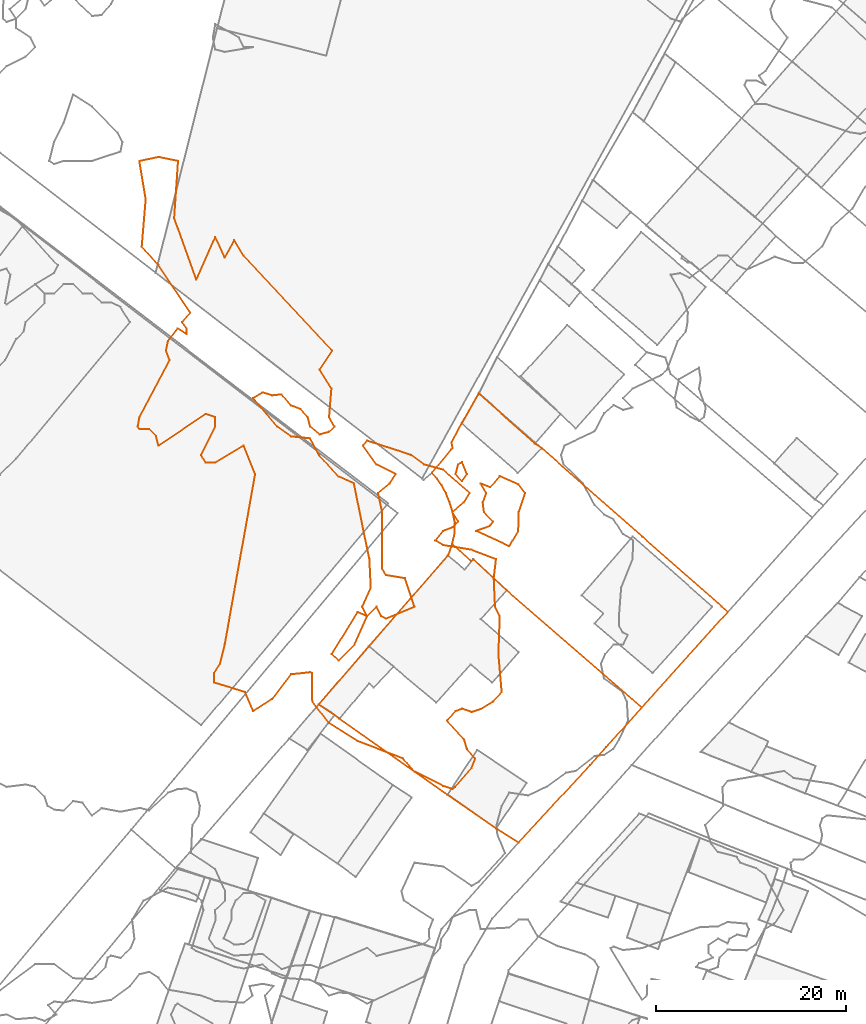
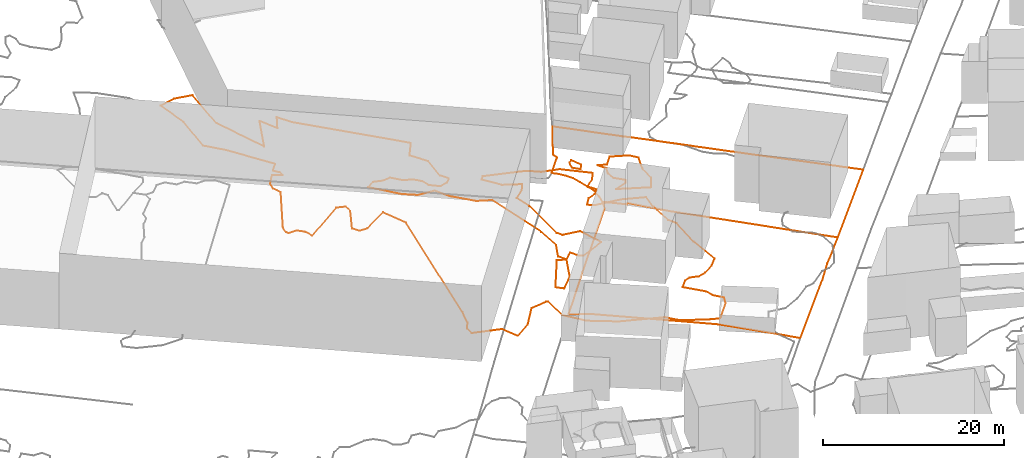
# Not in any storey, part 258 of 419: 6 proxies.
"""IFC2X3 model written with IfcOpenShell, lengths in metres."""

from ifc_helpers import new_model, entity, si_unit, frame, origin_with_axes, place, context, subcontext, project, element, save


model = new_model("IFC2X3")

# Units and contexts
model_context = context("Model", 3, precision=1e-05, world=origin_with_axes())
body_context = subcontext(model_context, "Body", "Model", "MODEL_VIEW")
ifc_project = project(units=[si_unit("AREAUNIT", "SQUARE_METRE"), si_unit("LENGTHUNIT", "METRE")], contexts=[model_context])

# Proxies
proxy_1_placement = place(None, frame((857.9720204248, 227.5776909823, 81.0853977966), z_axis=(0.0, 0.0, 1.0), x_axis=(1.0, 0.0, 0.0)))
element("IfcBuildingElementProxy", 1, at=proxy_1_placement, Name="Cadastre 133", ObjectType="NOTDEFINED", context=body_context, shape_type="GeometricCurveSet", body=[
    entity("IfcGeometricCurveSet", [entity("IfcPolyline", [entity("IfcCartesianPoint", [0.0, 0.0, 0.0]), entity("IfcCartesianPoint", [5.27, 6.1100000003, 0.0374320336]), entity("IfcCartesianPoint", [13.65, 15.6900000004, -0.003096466]), entity("IfcCartesianPoint", [14.1, 16.9200000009, -0.0725174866]), entity("IfcCartesianPoint", [16.1, 15.1200000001, -0.0176374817]), entity("IfcCartesianPoint", [16.34, 15.2800000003, -0.0251096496]), entity("IfcCartesianPoint", [19.8100000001, 12.0600000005, -0.3773402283]), entity("IfcCartesianPoint", [34.08, -0.3099999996, -1.4083007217]), entity("IfcCartesianPoint", [30.33, -4.4899999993, -1.1081881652]), entity("IfcCartesianPoint", [28.64, -6.3599999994, -1.4732922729]), entity("IfcCartesianPoint", [21.08, -14.5599999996, -1.7672061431]), entity("IfcCartesianPoint", [18.72, -13.0699999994, -1.2361580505]), entity("IfcCartesianPoint", [13.5700000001, -9.5, -0.3562212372]), entity("IfcCartesianPoint", [2.2000000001, -1.4899999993, 0.1367581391]), entity("IfcCartesianPoint", [1.6800000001, -1.1299999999, 0.0990405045]), entity("IfcCartesianPoint", [0.0, 0.0, 0.0])])]),
])
proxy_2_placement = place(None, frame((869.9320204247, 252.0276909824, 81.069601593), z_axis=(0.0, 0.0, 1.0), x_axis=(1.0, 0.0, 0.0)))
element("IfcBuildingElementProxy", 2, at=proxy_2_placement, Name="Cadastre 134", ObjectType="NOTDEFINED", context=body_context, shape_type="GeometricCurveSet", body=[
    entity("IfcGeometricCurveSet", [entity("IfcPolyline", [entity("IfcCartesianPoint", [2.14, -7.5299999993, -0.056721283]), entity("IfcCartesianPoint", [2.39, -6.3499999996, -0.1172121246]), entity("IfcCartesianPoint", [2.42, -5.25, -0.0875911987]), entity("IfcCartesianPoint", [2.2000000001, -4.2000000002, -0.1005547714]), entity("IfcCartesianPoint", [1.8500000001, -3.0800000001, -0.0145558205]), entity("IfcCartesianPoint", [1.4800000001, -2.1600000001, 0.088406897]), entity("IfcCartesianPoint", [1.02, -1.3199999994, 0.0828817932]), entity("IfcCartesianPoint", [0.55, -0.6200000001, 0.0496011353]), entity("IfcCartesianPoint", [0.0, 0.0, 0.0]), entity("IfcCartesianPoint", [2.02, 2.4400000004, -0.2011033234]), entity("IfcCartesianPoint", [2.1900000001, 2.5899999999, -0.2171036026]), entity("IfcCartesianPoint", [2.0600000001, 3.2000000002, -0.2411034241]), entity("IfcCartesianPoint", [3.1100000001, 5.1600000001, -0.3483710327]), entity("IfcCartesianPoint", [4.92, 8.3500000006, -0.5036703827]), entity("IfcCartesianPoint", [10.8200000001, 3.0800000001, -0.7143235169]), entity("IfcCartesianPoint", [11.55, 2.6000000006, -0.8008682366]), entity("IfcCartesianPoint", [22.14, -6.7199999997, -1.2387329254]), entity("IfcCartesianPoint", [30.52, -14.0899999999, -1.5305119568]), entity("IfcCartesianPoint", [31.2000000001, -14.6699999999, -1.5562343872]), entity("IfcCartesianPoint", [22.12, -24.7599999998, -1.3925045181]), entity("IfcCartesianPoint", [7.8500000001, -12.3899999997, -0.3615440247]), entity("IfcCartesianPoint", [4.38, -9.1699999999, -0.0093134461]), entity("IfcCartesianPoint", [4.14, -9.3300000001, -0.0018412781]), entity("IfcCartesianPoint", [2.14, -7.5299999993, -0.056721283])])]),
])
proxy_3_placement = place(None, frame((872.4253537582, 251.8976909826, 81.0), z_axis=(0.0, 0.0, 1.0), x_axis=(1.0, 0.0, 0.0)))
element("IfcBuildingElementProxy", 3, at=proxy_3_placement, Name="Contour 81.0 m", ObjectType="NOTDEFINED", context=body_context, shape_type="GeometricCurveSet", body=[
    entity("IfcGeometricCurveSet", [entity("IfcPolyline", [entity("IfcCartesianPoint", [1.2000067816, 0.0, 0.0]), entity("IfcCartesianPoint", [0.6666666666, -0.7272853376, 0.0]), entity("IfcCartesianPoint", [0.0, 0.0, 0.0]), entity("IfcCartesianPoint", [0.2666666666, 1.0, 0.0]), entity("IfcCartesianPoint", [0.6666666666, 1.2727146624, 0.0]), entity("IfcCartesianPoint", [1.2000067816, 0.0, 0.0])])]),
])
proxy_4_placement = place(None, frame((874.5919704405, 245.8976909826, 81.0), z_axis=(0.0, 0.0, 1.0), x_axis=(1.0, 0.0, 0.0)))
element("IfcBuildingElementProxy", 4, at=proxy_4_placement, Name="Contour 81.0 m", ObjectType="NOTDEFINED", context=body_context, shape_type="GeometricCurveSet", body=[
    entity("IfcGeometricCurveSet", [entity("IfcPolyline", [entity("IfcCartesianPoint", [3.8572161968, -1.0, 0.0]), entity("IfcCartesianPoint", [3.5000499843, -1.6250238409, 0.0]), entity("IfcCartesianPoint", [0.0, 0.0, 0.0]), entity("IfcCartesianPoint", [1.5000499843, 0.5384705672, 0.0]), entity("IfcCartesianPoint", [1.7727646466, 1.0, 0.0]), entity("IfcCartesianPoint", [0.8333833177, 2.0, 0.0]), entity("IfcCartesianPoint", [0.7000194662, 3.0, 0.0]), entity("IfcCartesianPoint", [1.071494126, 4.0, 0.0]), entity("IfcCartesianPoint", [0.5000166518, 5.0, 0.0]), entity("IfcCartesianPoint", [1.5000499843, 4.60003052, 0.0]), entity("IfcCartesianPoint", [2.5000499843, 5.7692352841, 0.0]), entity("IfcCartesianPoint", [4.5000499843, 4.8888700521, 0.0]), entity("IfcCartesianPoint", [5.1667166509, 4.0, 0.0]), entity("IfcCartesianPoint", [4.5000566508, 2.0, 0.0]), entity("IfcCartesianPoint", [4.444482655, 0.0, 0.0]), entity("IfcCartesianPoint", [3.8572161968, -1.0, 0.0])])]),
])
proxy_5_placement = place(None, frame((859.364735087, 232.8976909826, 81.0), z_axis=(0.0, 0.0, 1.0), x_axis=(1.0, 0.0, 0.0)))
element("IfcBuildingElementProxy", 5, at=proxy_5_placement, Name="Contour 81.0 m", ObjectType="NOTDEFINED", context=body_context, shape_type="GeometricCurveSet", body=[
    entity("IfcGeometricCurveSet", [entity("IfcPolyline", [entity("IfcCartesianPoint", [0.7272853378, -0.666666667, 0.0]), entity("IfcCartesianPoint", [2.3939520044, 1.0, 0.0]), entity("IfcCartesianPoint", [3.7272520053, 4.0, 0.0]), entity("IfcCartesianPoint", [2.7272853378, 4.4285558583, 0.0]), entity("IfcCartesianPoint", [0.0, 0.0, 0.0]), entity("IfcCartesianPoint", [0.7272853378, -0.666666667, 0.0])])]),
])
proxy_6_placement = place(None, frame((838.9253325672, 256.8976909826, 81.0), z_axis=(0.0, 0.0, 1.0), x_axis=(1.0, 0.0, 0.0)))
element("IfcBuildingElementProxy", 6, at=proxy_6_placement, Name="Contour 81.0 m", ObjectType="NOTDEFINED", context=body_context, shape_type="GeometricCurveSet", body=[
    entity("IfcGeometricCurveSet", [entity("IfcPolyline", [entity("IfcCartesianPoint", [33.4298584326, -38.0, 0.0]), entity("IfcCartesianPoint", [33.1666878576, -38.2381021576, 0.0]), entity("IfcCartesianPoint", [32.1666878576, -37.8857111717, 0.0]), entity("IfcCartesianPoint", [29.1666878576, -36.3695619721, 0.0]), entity("IfcCartesianPoint", [27.96669803, -35.0, 0.0]), entity("IfcCartesianPoint", [23.1666878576, -33.1666751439, 0.0]), entity("IfcCartesianPoint", [20.1666878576, -31.2727146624, 0.0]), entity("IfcCartesianPoint", [18.4019898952, -29.0, 0.0]), entity("IfcCartesianPoint", [18.3667183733, -26.0, 0.0]), entity("IfcCartesianPoint", [18.1666878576, -25.9090719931, 0.0]), entity("IfcCartesianPoint", [16.1666878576, -26.124996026, 0.0]), entity("IfcCartesianPoint", [14.1666878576, -28.7142960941, 0.0]), entity("IfcCartesianPoint", [12.1666878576, -30.0000031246, 0.0]), entity("IfcCartesianPoint", [11.3095761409, -28.0, 0.0]), entity("IfcCartesianPoint", [8.0416640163, -27.0, 0.0]), entity("IfcCartesianPoint", [8.0237995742, -26.0, 0.0]), entity("IfcCartesianPoint", [8.6666711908, -25.0, 0.0]), entity("IfcCartesianPoint", [9.1666711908, -23.0, 0.0]), entity("IfcCartesianPoint", [12.3667183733, -5.0, 0.0]), entity("IfcCartesianPoint", [11.1666878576, -2.0000999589, 0.0]), entity("IfcCartesianPoint", [8.1666878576, -3.7999694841, 0.0]), entity("IfcCartesianPoint", [7.1666878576, -3.7999694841, 0.0]), entity("IfcCartesianPoint", [6.6666753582, -3.0, 0.0]), entity("IfcCartesianPoint", [8.1666545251, 0.0, 0.0]), entity("IfcCartesianPoint", [8.1666545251, 1.0, 0.0]), entity("IfcCartesianPoint", [7.1666878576, 1.333333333, 0.0]), entity("IfcCartesianPoint", [2.1666878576, -2.0000142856, 0.0]), entity("IfcCartesianPoint", [1.9166401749, -1.0, 0.0]), entity("IfcCartesianPoint", [1.1666878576, -0.2500476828, 0.0]), entity("IfcCartesianPoint", [0.1666878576, -0.2500476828, 0.0]), entity("IfcCartesianPoint", [0.0, 0.0, 0.0]), entity("IfcCartesianPoint", [0.166678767, 1.0, 0.0]), entity("IfcCartesianPoint", [3.3484871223, 7.0, 0.0]), entity("IfcCartesianPoint", [2.9666573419, 8.0, 0.0]), entity("IfcCartesianPoint", [3.1666753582, 9.0, 0.0]), entity("IfcCartesianPoint", [4.1666878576, 10.3334181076, 0.0]), entity("IfcCartesianPoint", [5.1666878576, 9.7499523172, 0.0]), entity("IfcCartesianPoint", [5.1666878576, 10.3334181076, 0.0]), entity("IfcCartesianPoint", [4.6666628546, 11.0, 0.0]), entity("IfcCartesianPoint", [5.5303305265, 12.0, 0.0]), entity("IfcCartesianPoint", [2.1666878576, 16.9999800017, 0.0]), entity("IfcCartesianPoint", [0.4167355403, 19.0, 0.0]), entity("IfcCartesianPoint", [0.8332697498, 24.0, 0.0]), entity("IfcCartesianPoint", [0.1666678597, 28.0, 0.0]), entity("IfcCartesianPoint", [2.1666878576, 28.4230757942, 0.0]), entity("IfcCartesianPoint", [4.2436244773, 28.0, 0.0]), entity("IfcCartesianPoint", [3.8333969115, 22.0, 0.0]), entity("IfcCartesianPoint", [6.1666878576, 15.5000499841, 0.0]), entity("IfcCartesianPoint", [8.1666878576, 20.0000199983, 0.0]), entity("IfcCartesianPoint", [9.1666878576, 17.7999694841, 0.0]), entity("IfcCartesianPoint", [10.1666878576, 19.6665818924, 0.0]), entity("IfcCartesianPoint", [11.1666878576, 18.0000500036, 0.0]), entity("IfcCartesianPoint", [20.5001059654, 8.0, 0.0]), entity("IfcCartesianPoint", [19.1667128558, 6.0, 0.0]), entity("IfcCartesianPoint", [20.4167355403, 4.0, 0.0]), entity("IfcCartesianPoint", [20.1667128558, 1.0, 0.0]), entity("IfcCartesianPoint", [20.7222528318, 0.0, 0.0]), entity("IfcCartesianPoint", [20.1666878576, -0.5555649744, 0.0]), entity("IfcCartesianPoint", [19.1666878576, -0.8333121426, 0.0]), entity("IfcCartesianPoint", [18.1666878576, -9.99589e-05, 0.0]), entity("IfcCartesianPoint", [17.9166783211, 1.0, 0.0]), entity("IfcCartesianPoint", [17.1666878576, 1.833340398, 0.0]), entity("IfcCartesianPoint", [16.1666878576, 2.2221939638, 0.0]), entity("IfcCartesianPoint", [15.1666878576, 3.3846244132, 0.0]), entity("IfcCartesianPoint", [14.1666878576, 3.285667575, 0.0]), entity("IfcCartesianPoint", [13.1666878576, 3.5999847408, 0.0]), entity("IfcCartesianPoint", [12.1667045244, 3.0, 0.0]), entity("IfcCartesianPoint", [14.7051584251, 0.0, 0.0]), entity("IfcCartesianPoint", [16.1666878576, -1.0454640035, 0.0]), entity("IfcCartesianPoint", [18.1666878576, -1.2500476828, 0.0]), entity("IfcCartesianPoint", [19.0952437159, -3.0, 0.0]), entity("IfcCartesianPoint", [21.1666878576, -5.2666700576, 0.0]), entity("IfcCartesianPoint", [22.7917116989, -6.0, 0.0]), entity("IfcCartesianPoint", [24.4167355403, -14.0, 0.0]), entity("IfcCartesianPoint", [24.5666573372, -17.0, 0.0]), entity("IfcCartesianPoint", [23.666700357, -19.0, 0.0]), entity("IfcCartesianPoint", [24.1666878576, -19.9999750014, 0.0]), entity("IfcCartesianPoint", [25.1666878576, -18.9999000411, 0.0]), entity("IfcCartesianPoint", [25.6667378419, -20.0, 0.0]), entity("IfcCartesianPoint", [26.1666878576, -20.2500476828, 0.0]), entity("IfcCartesianPoint", [29.166587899, -19.0, 0.0]), entity("IfcCartesianPoint", [28.1666878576, -16.0000999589, 0.0]), entity("IfcCartesianPoint", [26.1666878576, -15.6665818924, 0.0]), entity("IfcCartesianPoint", [25.7667183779, -15.0, 0.0]), entity("IfcCartesianPoint", [25.7667183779, -9.0, 0.0]), entity("IfcCartesianPoint", [25.3333757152, -7.0, 0.0]), entity("IfcCartesianPoint", [26.5416640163, -6.0, 0.0]), entity("IfcCartesianPoint", [27.1666545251, -5.0, 0.0]), entity("IfcCartesianPoint", [25.1666628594, -4.0, 0.0]), entity("IfcCartesianPoint", [23.7381319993, -2.0, 0.0]), entity("IfcCartesianPoint", [24.1666878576, -1.4999833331, 0.0]), entity("IfcCartesianPoint", [28.8332697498, -3.0, 0.0]), entity("IfcCartesianPoint", [30.166737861, -4.0, 0.0]), entity("IfcCartesianPoint", [32.1666878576, -4.5555649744, 0.0]), entity("IfcCartesianPoint", [34.96669803, -7.0, 0.0]), entity("IfcCartesianPoint", [34.3667183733, -8.0, 0.0]), entity("IfcCartesianPoint", [33.1666945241, -9.0, 0.0]), entity("IfcCartesianPoint", [33.7917116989, -10.0, 0.0]), entity("IfcCartesianPoint", [33.1666878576, -10.6250238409, 0.0]), entity("IfcCartesianPoint", [32.1666878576, -11.0000249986, 0.0]), entity("IfcCartesianPoint", [31.3667183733, -12.0, 0.0]), entity("IfcCartesianPoint", [32.1666878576, -12.4999875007, 0.0]), entity("IfcCartesianPoint", [35.1666878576, -12.9999833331, 0.0]), entity("IfcCartesianPoint", [37.7667183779, -14.0, 0.0]), entity("IfcCartesianPoint", [37.5303305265, -16.0, 0.0]), entity("IfcCartesianPoint", [37.6666941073, -19.0, 0.0]), entity("IfcCartesianPoint", [38.1667078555, -20.0, 0.0]), entity("IfcCartesianPoint", [38.0237995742, -24.0, 0.0]), entity("IfcCartesianPoint", [38.3666573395, -28.0, 0.0]), entity("IfcCartesianPoint", [37.4394025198, -29.0, 0.0]), entity("IfcCartesianPoint", [36.1666878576, -29.7999999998, 0.0]), entity("IfcCartesianPoint", [35.1666878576, -30.0909280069, 0.0]), entity("IfcCartesianPoint", [34.1666878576, -29.7600097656, 0.0]), entity("IfcCartesianPoint", [33.500021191, -30.0, 0.0]), entity("IfcCartesianPoint", [32.5952437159, -31.0, 0.0]), entity("IfcCartesianPoint", [34.416664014, -33.0, 0.0]), entity("IfcCartesianPoint", [34.7051584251, -34.0, 0.0]), entity("IfcCartesianPoint", [35.5666573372, -35.0, 0.0]), entity("IfcCartesianPoint", [35.166693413, -36.0, 0.0]), entity("IfcCartesianPoint", [33.4298584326, -38.0, 0.0])])]),
])

save(model, "model.ifc")
